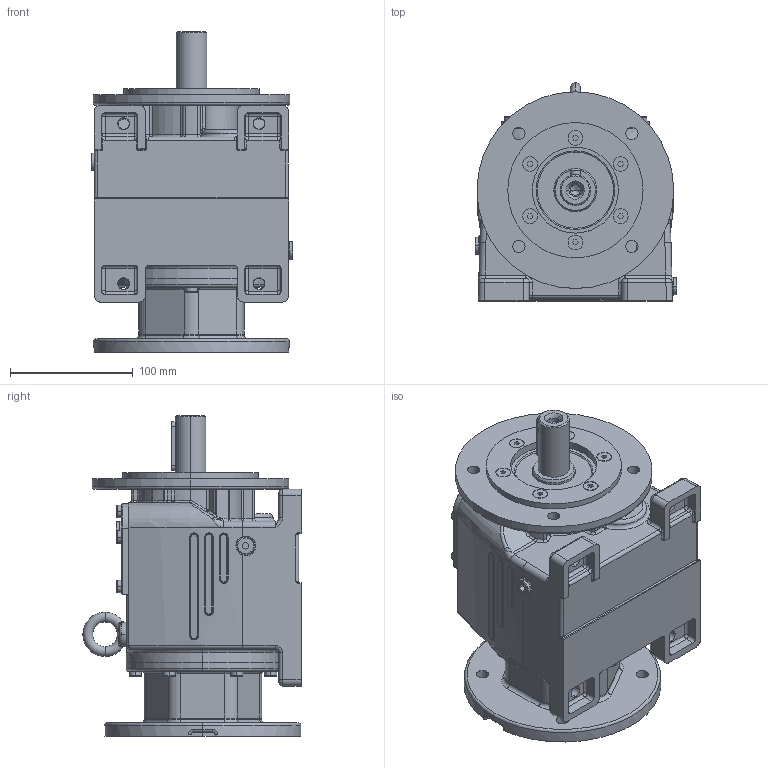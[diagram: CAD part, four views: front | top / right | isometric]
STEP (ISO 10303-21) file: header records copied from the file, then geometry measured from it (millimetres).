
FILE_DESCRIPTION (( 'STEP AP214' ), '1' );
FILE_NAME ('MTC33A-90-130+VP.STEP', '2006-05-04T06:28:56', ( '' ), ( '' ), 'SwSTEP 2.0', 'SolidWorks 2004146', '' );
FILE_SCHEMA (( 'AUTOMOTIVE_DESIGN' ));
Length unit declared in the file: millimetre
Products named in the file (6): D7991_Šroub DIN 7991 - M6 x 25; Skrin MTC3_A_MTC33A_AP90; MTC33A-90-130+VP; D6912_Šroub DIN 6912 - M6x20; Výst_pøíruba MTC_A_MTC3_A; pøíruba130 d72 MRT80a_Výchozí
Assembly tree (15 placements, depth 2):
  MTC33A-90-130+VP
    D6912_Šroub DIN 6912 - M6x20  x6
    D7991_Šroub DIN 7991 - M6 x 25  x6
    pøíruba130 d72 MRT80a_Výchozí
    Výst_pøíruba MTC_A_MTC3_A
    Skrin MTC3_A_MTC33A_AP90
Bounding box: 164 x 177.5 x 261 mm (x, y, z)
Volume: 3288983.1 mm3; surface area: 270120.8 mm2
Topology: 15 solids, 15 shells, 1669 faces, 3846 edges, 2215 vertices
Faces by surface type: cylinder 482, plane 458, torus 318, cone 199, bspline 173, sphere 39
Entity records: 142869 total; most frequent: CARTESIAN_POINT 107891, DIRECTION 6851, ORIENTED_EDGE 6448, EDGE_CURVE 3224, AXIS2_PLACEMENT_3D 2806, VERTEX_POINT 1927, CIRCLE 1572, EDGE_LOOP 1525
